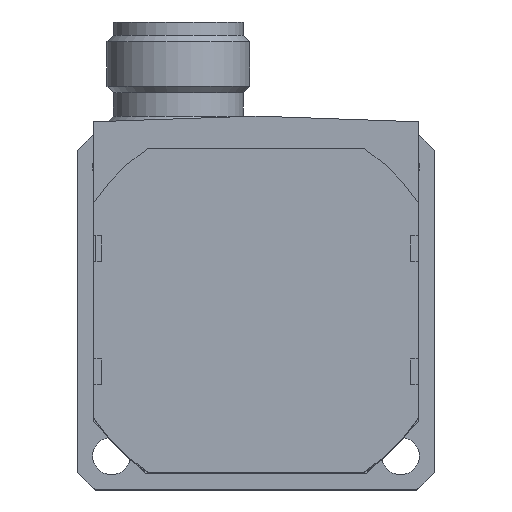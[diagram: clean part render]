
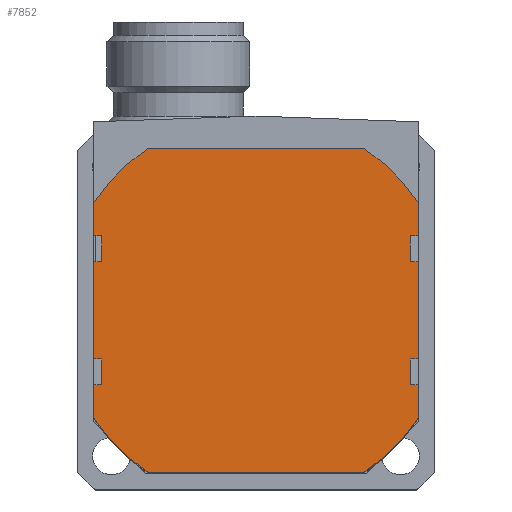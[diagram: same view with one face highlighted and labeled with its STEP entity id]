
A CAD part, top view. The second image highlights one B-rep face of the part: STEP entity #7852.
In plain terms, the highlighted planar face has unit normal (0, 0, 1).
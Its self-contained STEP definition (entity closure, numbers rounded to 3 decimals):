
#1865=LINE('',#11279,#9363);
#1866=LINE('',#11282,#9364);
#1867=LINE('',#11284,#9365);
#1868=LINE('',#11286,#9366);
#1869=LINE('',#11290,#9367);
#1870=LINE('',#11294,#9368);
#1871=LINE('',#11296,#9369);
#1872=LINE('',#11298,#9370);
#1873=LINE('',#11300,#9371);
#1874=LINE('',#11302,#9372);
#1875=LINE('',#11304,#9373);
#1876=LINE('',#11306,#9374);
#1877=LINE('',#11308,#9375);
#1878=LINE('',#11310,#9376);
#1879=LINE('',#11314,#9377);
#1880=LINE('',#11318,#9378);
#1881=LINE('',#11320,#9379);
#1882=LINE('',#11322,#9380);
#1883=LINE('',#11324,#9381);
#1884=LINE('',#11326,#9382);
#2616=VERTEX_POINT('',#11280);
#2617=VERTEX_POINT('',#11281);
#2618=VERTEX_POINT('',#11283);
#2619=VERTEX_POINT('',#11285);
#2620=VERTEX_POINT('',#11287);
#2621=VERTEX_POINT('',#11289);
#2622=VERTEX_POINT('',#11291);
#2623=VERTEX_POINT('',#11293);
#2624=VERTEX_POINT('',#11295);
#2625=VERTEX_POINT('',#11297);
#2626=VERTEX_POINT('',#11299);
#2627=VERTEX_POINT('',#11301);
#2628=VERTEX_POINT('',#11303);
#2629=VERTEX_POINT('',#11305);
#2630=VERTEX_POINT('',#11307);
#2631=VERTEX_POINT('',#11309);
#2632=VERTEX_POINT('',#11311);
#2633=VERTEX_POINT('',#11313);
#2634=VERTEX_POINT('',#11315);
#2635=VERTEX_POINT('',#11317);
#2636=VERTEX_POINT('',#11319);
#2637=VERTEX_POINT('',#11321);
#2638=VERTEX_POINT('',#11323);
#2639=VERTEX_POINT('',#11325);
#3263=CIRCLE('',#8497,30.);
#3264=CIRCLE('',#8498,30.);
#3265=CIRCLE('',#8499,30.);
#3266=CIRCLE('',#8500,30.);
#3781=EDGE_CURVE('',#2616,#2617,#1865,.T.);
#3782=EDGE_CURVE('',#2618,#2616,#1866,.T.);
#3783=EDGE_CURVE('',#2619,#2618,#1867,.T.);
#3784=EDGE_CURVE('',#2620,#2619,#1868,.T.);
#3785=EDGE_CURVE('',#2621,#2620,#3263,.T.);
#3786=EDGE_CURVE('',#2622,#2621,#1869,.T.);
#3787=EDGE_CURVE('',#2623,#2622,#3264,.T.);
#3788=EDGE_CURVE('',#2624,#2623,#1870,.T.);
#3789=EDGE_CURVE('',#2625,#2624,#1871,.T.);
#3790=EDGE_CURVE('',#2626,#2625,#1872,.T.);
#3791=EDGE_CURVE('',#2627,#2626,#1873,.T.);
#3792=EDGE_CURVE('',#2628,#2627,#1874,.T.);
#3793=EDGE_CURVE('',#2629,#2628,#1875,.T.);
#3794=EDGE_CURVE('',#2630,#2629,#1876,.T.);
#3795=EDGE_CURVE('',#2631,#2630,#1877,.T.);
#3796=EDGE_CURVE('',#2632,#2631,#1878,.T.);
#3797=EDGE_CURVE('',#2633,#2632,#3265,.T.);
#3798=EDGE_CURVE('',#2634,#2633,#1879,.T.);
#3799=EDGE_CURVE('',#2635,#2634,#3266,.T.);
#3800=EDGE_CURVE('',#2636,#2635,#1880,.T.);
#3801=EDGE_CURVE('',#2637,#2636,#1881,.T.);
#3802=EDGE_CURVE('',#2638,#2637,#1882,.T.);
#3803=EDGE_CURVE('',#2639,#2638,#1883,.T.);
#3804=EDGE_CURVE('',#2617,#2639,#1884,.T.);
#5069=ORIENTED_EDGE('',*,*,#3781,.F.);
#5070=ORIENTED_EDGE('',*,*,#3782,.F.);
#5071=ORIENTED_EDGE('',*,*,#3783,.F.);
#5072=ORIENTED_EDGE('',*,*,#3784,.F.);
#5073=ORIENTED_EDGE('',*,*,#3785,.F.);
#5074=ORIENTED_EDGE('',*,*,#3786,.F.);
#5075=ORIENTED_EDGE('',*,*,#3787,.F.);
#5076=ORIENTED_EDGE('',*,*,#3788,.F.);
#5077=ORIENTED_EDGE('',*,*,#3789,.F.);
#5078=ORIENTED_EDGE('',*,*,#3790,.F.);
#5079=ORIENTED_EDGE('',*,*,#3791,.F.);
#5080=ORIENTED_EDGE('',*,*,#3792,.F.);
#5081=ORIENTED_EDGE('',*,*,#3793,.F.);
#5082=ORIENTED_EDGE('',*,*,#3794,.F.);
#5083=ORIENTED_EDGE('',*,*,#3795,.F.);
#5084=ORIENTED_EDGE('',*,*,#3796,.F.);
#5085=ORIENTED_EDGE('',*,*,#3797,.F.);
#5086=ORIENTED_EDGE('',*,*,#3798,.F.);
#5087=ORIENTED_EDGE('',*,*,#3799,.F.);
#5088=ORIENTED_EDGE('',*,*,#3800,.F.);
#5089=ORIENTED_EDGE('',*,*,#3801,.F.);
#5090=ORIENTED_EDGE('',*,*,#3802,.F.);
#5091=ORIENTED_EDGE('',*,*,#3803,.F.);
#5092=ORIENTED_EDGE('',*,*,#3804,.F.);
#6818=EDGE_LOOP('',(#5069,#5070,#5071,#5072,#5073,#5074,#5075,#5076,#5077,
#5078,#5079,#5080,#5081,#5082,#5083,#5084,#5085,#5086,#5087,#5088,#5089,
#5090,#5091,#5092));
#7347=FACE_BOUND('',#6818,.T.);
#7852=ADVANCED_FACE('',(#7347),#9826,.T.);
#8496=AXIS2_PLACEMENT_3D('',#11278,#15397,$);
#8497=AXIS2_PLACEMENT_3D('',#11288,#15402,#15403);
#8498=AXIS2_PLACEMENT_3D('',#11292,#15405,#15406);
#8499=AXIS2_PLACEMENT_3D('',#11312,#15416,#15417);
#8500=AXIS2_PLACEMENT_3D('',#11316,#15419,#15420);
#9363=VECTOR('',#15398,1.);
#9364=VECTOR('',#15399,1.);
#9365=VECTOR('',#15400,1.);
#9366=VECTOR('',#15401,1.);
#9367=VECTOR('',#15404,1.);
#9368=VECTOR('',#15407,1.);
#9369=VECTOR('',#15408,1.);
#9370=VECTOR('',#15409,1.);
#9371=VECTOR('',#15410,1.);
#9372=VECTOR('',#15411,1.);
#9373=VECTOR('',#15412,1.);
#9374=VECTOR('',#15413,1.);
#9375=VECTOR('',#15414,1.);
#9376=VECTOR('',#15415,1.);
#9377=VECTOR('',#15418,1.);
#9378=VECTOR('',#15421,1.);
#9379=VECTOR('',#15422,1.);
#9380=VECTOR('',#15423,1.);
#9381=VECTOR('',#15424,1.);
#9382=VECTOR('',#15425,1.);
#9826=PLANE('',#8496);
#11278=CARTESIAN_POINT('',(0.,0.,42.5));
#11279=CARTESIAN_POINT('',(23.8,7.5,42.5));
#11280=CARTESIAN_POINT('',(23.8,7.5,42.5));
#11281=CARTESIAN_POINT('',(25.,7.5,42.5));
#11282=CARTESIAN_POINT('',(23.8,11.5,42.5));
#11283=CARTESIAN_POINT('',(23.8,11.5,42.5));
#11284=CARTESIAN_POINT('',(25.,11.5,42.5));
#11285=CARTESIAN_POINT('',(25.,11.5,42.5));
#11286=CARTESIAN_POINT('',(25.,16.583,42.5));
#11287=CARTESIAN_POINT('',(25.,16.583,42.5));
#11288=CARTESIAN_POINT('',(0.,0.,42.5));
#11289=CARTESIAN_POINT('',(16.583,25.,42.5));
#11290=CARTESIAN_POINT('',(-16.583,25.,42.5));
#11291=CARTESIAN_POINT('',(-16.583,25.,42.5));
#11292=CARTESIAN_POINT('',(0.,0.,42.5));
#11293=CARTESIAN_POINT('',(-25.,16.583,42.5));
#11294=CARTESIAN_POINT('',(-25.,11.5,42.5));
#11295=CARTESIAN_POINT('',(-25.,11.5,42.5));
#11296=CARTESIAN_POINT('',(-23.8,11.5,42.5));
#11297=CARTESIAN_POINT('',(-23.8,11.5,42.5));
#11298=CARTESIAN_POINT('',(-23.8,7.5,42.5));
#11299=CARTESIAN_POINT('',(-23.8,7.5,42.5));
#11300=CARTESIAN_POINT('',(-25.,7.5,42.5));
#11301=CARTESIAN_POINT('',(-25.,7.5,42.5));
#11302=CARTESIAN_POINT('',(-25.,-7.5,42.5));
#11303=CARTESIAN_POINT('',(-25.,-7.5,42.5));
#11304=CARTESIAN_POINT('',(-23.8,-7.5,42.5));
#11305=CARTESIAN_POINT('',(-23.8,-7.5,42.5));
#11306=CARTESIAN_POINT('',(-23.8,-11.5,42.5));
#11307=CARTESIAN_POINT('',(-23.8,-11.5,42.5));
#11308=CARTESIAN_POINT('',(-25.,-11.5,42.5));
#11309=CARTESIAN_POINT('',(-25.,-11.5,42.5));
#11310=CARTESIAN_POINT('',(-25.,-16.583,42.5));
#11311=CARTESIAN_POINT('',(-25.,-16.583,42.5));
#11312=CARTESIAN_POINT('',(0.,0.,42.5));
#11313=CARTESIAN_POINT('',(-16.583,-25.,42.5));
#11314=CARTESIAN_POINT('',(16.583,-25.,42.5));
#11315=CARTESIAN_POINT('',(16.583,-25.,42.5));
#11316=CARTESIAN_POINT('',(0.,0.,42.5));
#11317=CARTESIAN_POINT('',(25.,-16.583,42.5));
#11318=CARTESIAN_POINT('',(25.,-11.5,42.5));
#11319=CARTESIAN_POINT('',(25.,-11.5,42.5));
#11320=CARTESIAN_POINT('',(23.8,-11.5,42.5));
#11321=CARTESIAN_POINT('',(23.8,-11.5,42.5));
#11322=CARTESIAN_POINT('',(23.8,-7.5,42.5));
#11323=CARTESIAN_POINT('',(23.8,-7.5,42.5));
#11324=CARTESIAN_POINT('',(25.,-7.5,42.5));
#11325=CARTESIAN_POINT('',(25.,-7.5,42.5));
#11326=CARTESIAN_POINT('',(25.,7.5,42.5));
#15397=DIRECTION('',(0.,0.,1.));
#15398=DIRECTION('',(1.,0.,0.));
#15399=DIRECTION('',(0.,-1.,0.));
#15400=DIRECTION('',(-1.,0.,0.));
#15401=DIRECTION('',(0.,-1.,0.));
#15402=DIRECTION('',(0.,0.,-1.));
#15403=DIRECTION('',(30.,0.,0.));
#15404=DIRECTION('',(1.,0.,0.));
#15405=DIRECTION('',(0.,0.,-1.));
#15406=DIRECTION('',(30.,0.,0.));
#15407=DIRECTION('',(0.,1.,0.));
#15408=DIRECTION('',(-1.,0.,0.));
#15409=DIRECTION('',(0.,1.,0.));
#15410=DIRECTION('',(1.,0.,0.));
#15411=DIRECTION('',(0.,1.,0.));
#15412=DIRECTION('',(-1.,0.,0.));
#15413=DIRECTION('',(0.,1.,0.));
#15414=DIRECTION('',(1.,0.,0.));
#15415=DIRECTION('',(0.,1.,0.));
#15416=DIRECTION('',(0.,0.,-1.));
#15417=DIRECTION('',(30.,0.,0.));
#15418=DIRECTION('',(-1.,0.,0.));
#15419=DIRECTION('',(0.,0.,-1.));
#15420=DIRECTION('',(30.,0.,0.));
#15421=DIRECTION('',(0.,-1.,0.));
#15422=DIRECTION('',(1.,0.,0.));
#15423=DIRECTION('',(0.,-1.,0.));
#15424=DIRECTION('',(-1.,0.,0.));
#15425=DIRECTION('',(0.,-1.,0.));
